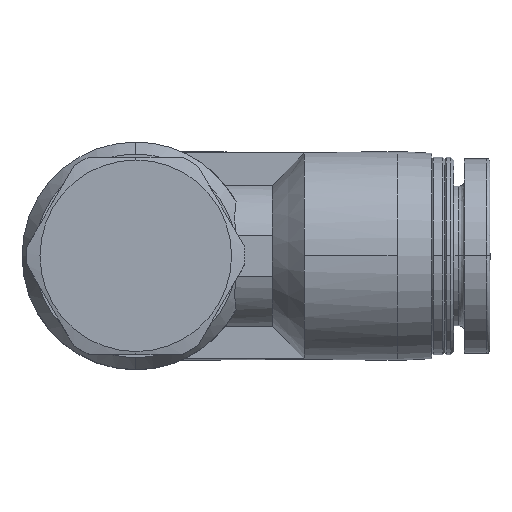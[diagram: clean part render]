
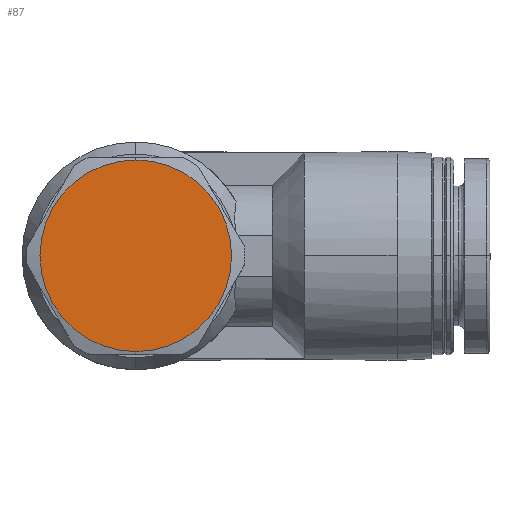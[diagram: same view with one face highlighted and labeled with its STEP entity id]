
A CAD part, top view. The second image highlights one B-rep face of the part: STEP entity #87.
In plain terms, the highlighted planar face has unit normal (0, 0, 1).
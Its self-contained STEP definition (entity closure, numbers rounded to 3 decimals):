
#24 = DIRECTION ( 'NONE',  ( 0., 1., 0. ) ) ;
#87 = ADVANCED_FACE ( '24', ( #2965 ), #3153, .T. ) ;
#172 = CARTESIAN_POINT ( 'NONE',  ( 0., 0., 31.5 ) ) ;
#555 = CARTESIAN_POINT ( 'NONE',  ( 8.75, 8.75, 31.5 ) ) ;
#571 = ORIENTED_EDGE ( 'NONE', *, *, #2669, .F. ) ;
#672 = VERTEX_POINT ( 'NONE', #2350 ) ;
#746 = CIRCLE ( 'NONE', #1026, 8.25 ) ;
#783 = DIRECTION ( 'NONE',  ( 0., 0., 1. ) ) ;
#914 = AXIS2_PLACEMENT_3D ( 'NONE', #172, #3150, #2846 ) ;
#1026 = AXIS2_PLACEMENT_3D ( 'NONE', #1934, #1374, #24 ) ;
#1066 = DIRECTION ( 'NONE',  ( 0., -1., 0. ) ) ;
#1128 = CARTESIAN_POINT ( 'NONE',  ( 0., -8.25, 31.5 ) ) ;
#1374 = DIRECTION ( 'NONE',  ( 0., 0., -1. ) ) ;
#1934 = CARTESIAN_POINT ( 'NONE',  ( 0., 0., 31.5 ) ) ;
#1978 = CIRCLE ( 'NONE', #914, 8.25 ) ;
#2107 = EDGE_CURVE ( 'NONE', #672, #2655, #1978, .T. ) ;
#2350 = CARTESIAN_POINT ( 'NONE',  ( 0., 8.25, 31.5 ) ) ;
#2500 = ORIENTED_EDGE ( 'NONE', *, *, #2107, .F. ) ;
#2655 = VERTEX_POINT ( 'NONE', #1128 ) ;
#2669 = EDGE_CURVE ( 'NONE', #2655, #672, #746, .T. ) ;
#2846 = DIRECTION ( 'NONE',  ( 0., 1., 0. ) ) ;
#2965 = FACE_OUTER_BOUND ( 'NONE', #3245, .T. ) ;
#2988 = AXIS2_PLACEMENT_3D ( 'NONE', #555, #783, #1066 ) ;
#3150 = DIRECTION ( 'NONE',  ( 0., 0., -1. ) ) ;
#3153 = PLANE ( 'NONE',  #2988 ) ;
#3245 = EDGE_LOOP ( 'NONE', ( #2500, #571 ) ) ;
